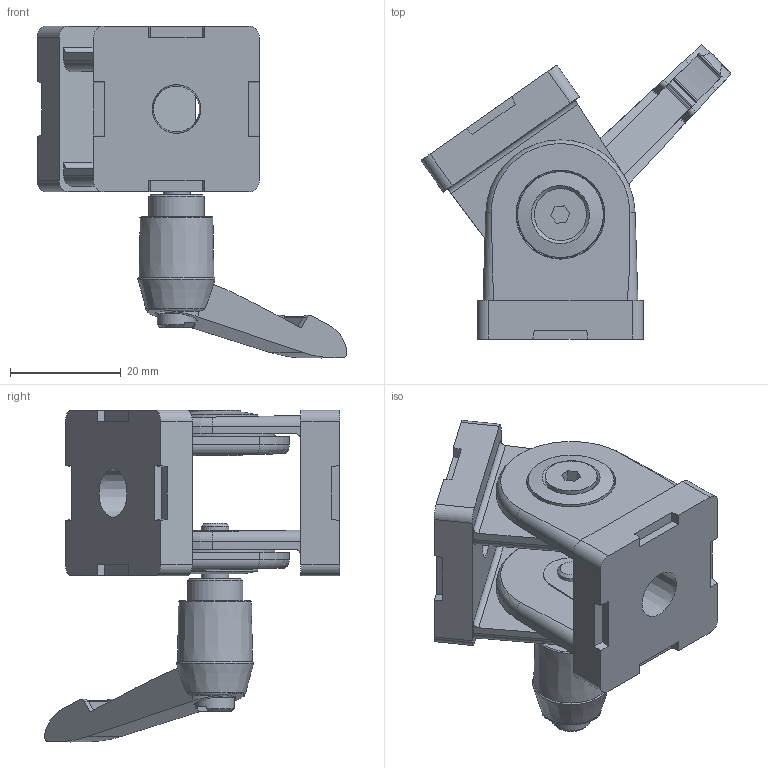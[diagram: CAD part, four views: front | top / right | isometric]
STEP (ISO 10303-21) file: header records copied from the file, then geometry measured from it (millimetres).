
FILE_DESCRIPTION(/* description */ ('STEP AP203'),/* implementation_level */ '2;1');
FILE_NAME(/* name */ '093GF30A(-35)',/* time_stamp */ '2025-04-16T06:48:35+02:00',/* author */ ('License CC BY-ND 4.0'),/* organization */ ('CADENAS'),/* preprocessor_version */ 'ST-DEVELOPER v19.3',/* originating_system */ 'PARTsolutions',/* authorisation */ ' ');
FILE_SCHEMA (('CONFIG_CONTROL_DESIGN'));
Length unit declared in the file: millimetre
Products named in the file (7): 093GF30A(-35); 093GF30A_part_1; 093GF30A_part_4; 093GF30A_part_5; 093GF30A_part_6; 093GF30A_part_2; 093GF30A_part_3
Assembly tree (8 placements, depth 2):
  093GF30A(-35)
    093GF30A_part_1
    093GF30A_part_4  x2
    093GF30A_part_5  x2
    093GF30A_part_6
    093GF30A_part_2
    093GF30A_part_3
Bounding box: 56.01 x 53.32 x 60 mm (x, y, z)
Volume: 24475.1 mm3; surface area: 16808.9 mm2
Topology: 8 solids, 8 shells, 362 faces, 900 edges, 577 vertices
Faces by surface type: plane 155, cylinder 90, torus 60, cone 53, bspline 2, sphere 2
Full cylindrical faces by diameter (mm): 2.5 x4, 4 x1, 4.134 x2, 5 x2, 7 x1, 7.5 x2, 7.6 x1, 9.4 x1, 10 x1, 11.2 x2, 14 x2, 15.5 x2, 22 x2
Entity records: 8956 total; most frequent: CARTESIAN_POINT 1893, DIRECTION 1425, ORIENTED_EDGE 1356, EDGE_CURVE 678, AXIS2_PLACEMENT_3D 557, VERTEX_POINT 471, EDGE_LOOP 399, FACE_BOUND 399
